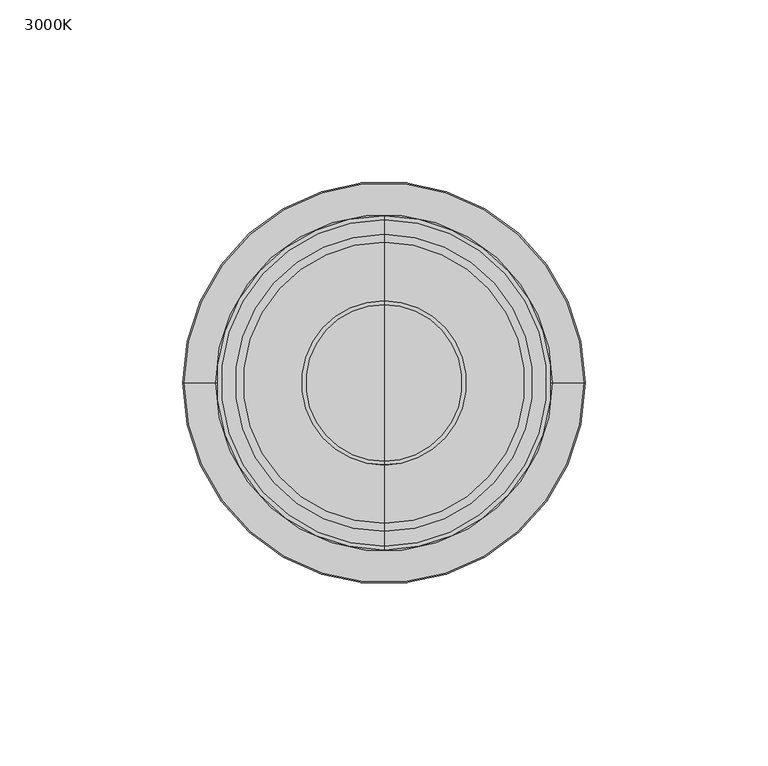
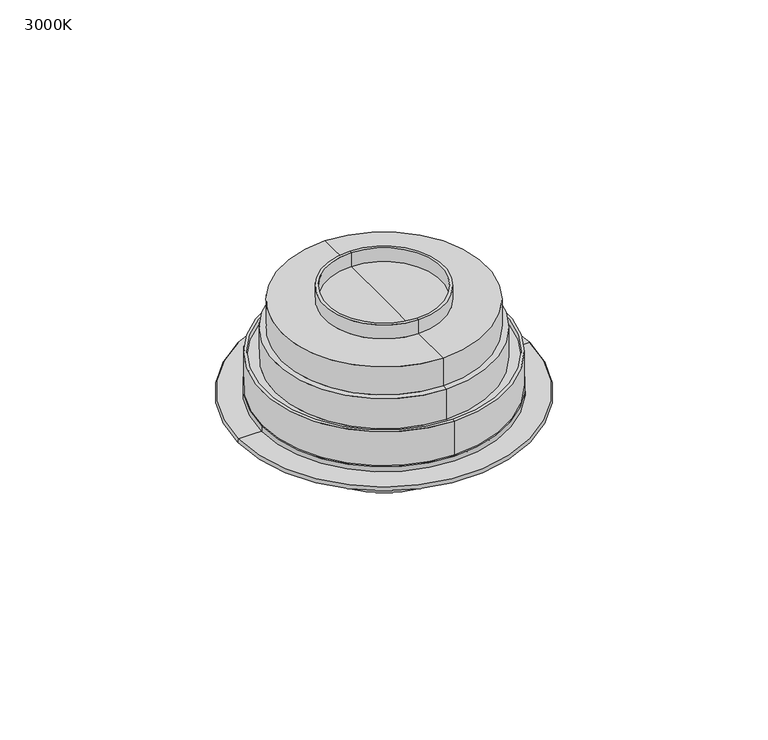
"""IFC4 building model written with IfcOpenShell, lengths in millimetres: light fixture geometry, Lumi-Smoke : 3000K."""

from ifc_helpers import new_model, si_unit, point, frame, frame_2d, origin, place, context, project, spatial, polyline, circle_curve, ellipse_curve, trimmed, segment, composite_curve, outline, extrude, source, transform, mapped, element, save
from ifc_brep_helpers import plane_surface, cylinder_surface, revolved_surface, advanced_brep


def light_fixture_3000k_4c776d6b(model_context):
    return source(origin(), model_context, "Body", "SolidModel", [
        advanced_brep(
        [(-0.0291, 0.0, 3974.8311172), (-4.1121669, 0.0, 3974.8311172), (4.0539669, 0.0, 3974.8311172), (19.7035983, 0.0, 3976.7916827), (-19.7617982, 0.0, 3976.7916827), (-0.0291, 0.0, 3976.7916827)],
        [
            (0, 1),
            (1, 2, circle_curve(frame((-0.0291, 0.0, 3974.8311172), z_axis=(0.0, 0.0, -1.0), x_axis=(-1.0, 0.0, 0.0)), 4.0830669)),
            (2, 0),
            (2, 1, circle_curve(frame((-0.0291, 0.0, 3974.8311172), z_axis=(0.0, 0.0, -1.0), x_axis=(-1.0, 0.0, 0.0)), 4.0830669)),
            (3, 4, circle_curve(frame((-0.0291, 0.0, 3976.7916827), z_axis=(0.0, 0.0, 1.0), x_axis=(-1.0, 0.0, 0.0)), 19.7326982)),
            (4, 5),
            (5, 3),
            (4, 3, circle_curve(frame((-0.0291, 0.0, 3976.7916827), z_axis=(0.0, 0.0, 1.0), x_axis=(-1.0, 0.0, 0.0)), 19.7326982)),
            (1, 4, circle_curve(frame((44.4302261, 0.0, 4425.7458804), z_axis=(0.0, 1.0, 0.0), x_axis=(1.0, 0.0, 0.0)), 453.5201071)),
            (3, 2, circle_curve(frame((-44.488426, 0.0, 4425.7458804), z_axis=(0.0, 1.0, 0.0), x_axis=(-1.0, 0.0, 0.0)), 453.5201071)),
        ],
        [
            plane_surface(frame((-0.0291, 0.0, 3974.8311172), z_axis=(0.0, 0.0, -1.0), x_axis=(-1.0, 0.0, 0.0))),
            plane_surface(frame((-0.0291, 0.0, 3976.7916827), z_axis=(0.0, 0.0, 1.0), x_axis=(-1.0, 0.0, 0.0))),
            revolved_surface(trimmed(ellipse_curve(frame((44.4302261, 0.0, 4425.7458804), z_axis=(0.0, -1.0, 0.0), x_axis=(1.0, 0.0, 0.0)), 453.5201071, 453.5201071), [point((-19.7617982, 0.0, 3976.7916827))], [point((-4.1121669, 0.0, 3974.8311172))], True, "CARTESIAN"), (-0.0291, 0.0, 4324.4347907), (0.0, 0.0, -1.0)),
        ],
        [
            (0, [[1, 2, 3]]),
            (0, [[-3, 4, -1]]),
            (1, [[5, 6, 7]]),
            (1, [[8, -7, -6]]),
            (2, [[-2, 9, -5, 10]]),
            (2, [[-4, -10, -8, -9]]),
        ],
    ),
        advanced_brep(
        [(-0.0291, 0.0, 3976.7916827), (-19.7617982, 0.0, 3976.7916827), (19.7035983, 0.0, 3976.7916827), (27.4999315, 0.0, 3978.7355269), (-27.5581315, 0.0, 3978.7355269), (-0.0291, 0.0, 3978.7355269)],
        [
            (0, 1),
            (1, 2, circle_curve(frame((-0.0291, 0.0, 3976.7916827), z_axis=(0.0, 0.0, -1.0), x_axis=(-1.0, 0.0, 0.0)), 19.7326982)),
            (2, 0),
            (2, 1, circle_curve(frame((-0.0291, 0.0, 3976.7916827), z_axis=(0.0, 0.0, -1.0), x_axis=(-1.0, 0.0, 0.0)), 19.7326982)),
            (3, 4, circle_curve(frame((-0.0291, 0.0, 3978.7355269), z_axis=(0.0, 0.0, 1.0), x_axis=(-1.0, 0.0, 0.0)), 27.5290315)),
            (4, 5),
            (5, 3),
            (4, 3, circle_curve(frame((-0.0291, 0.0, 3978.7355269), z_axis=(0.0, 0.0, 1.0), x_axis=(-1.0, 0.0, 0.0)), 27.5290315)),
            (1, 4, circle_curve(frame((-18.7375811, 0.0, 3997.5062079), z_axis=(0.0, 1.0, 0.0), x_axis=(1.0, 0.0, 0.0)), 20.7398306)),
            (3, 2, circle_curve(frame((18.6793811, 0.0, 3997.5062079), z_axis=(0.0, 1.0, 0.0), x_axis=(-1.0, 0.0, 0.0)), 20.7398306)),
        ],
        [
            plane_surface(frame((-0.0291, 0.0, 3976.7916827), z_axis=(0.0, 0.0, -1.0), x_axis=(-1.0, 0.0, 0.0))),
            plane_surface(frame((-0.0291, 0.0, 3978.7355269), z_axis=(0.0, 0.0, 1.0), x_axis=(-1.0, 0.0, 0.0))),
            revolved_surface(trimmed(ellipse_curve(frame((-18.7375811, 0.0, 3997.5062079), z_axis=(0.0, -1.0, 0.0), x_axis=(1.0, 0.0, 0.0)), 20.7398306, 20.7398306), [point((-27.5581315, 0.0, 3978.7355269))], [point((-19.7617982, 0.0, 3976.7916827))], True, "CARTESIAN"), (-0.0291, 0.0, 4324.4347907), (0.0, 0.0, -1.0)),
        ],
        [
            (0, [[1, 2, 3]]),
            (0, [[-3, 4, -1]]),
            (1, [[5, 6, 7]]),
            (1, [[8, -7, -6]]),
            (2, [[-2, 9, -5, 10]]),
            (2, [[-4, -10, -8, -9]]),
        ],
    ),
        advanced_brep(
        [(-0.0291, 0.0, 3978.7355269), (-27.5581315, 0.0, 3978.7355269), (27.4999315, 0.0, 3978.7355269), (28.9292988, 0.0, 3980.9449981), (-28.9874987, 0.0, 3980.9449981), (-0.0291, 0.0, 3980.9449981)],
        [
            (0, 1),
            (1, 2, circle_curve(frame((-0.0291, 0.0, 3978.7355269), z_axis=(0.0, 0.0, -1.0), x_axis=(-1.0, 0.0, 0.0)), 27.5290315)),
            (2, 0),
            (2, 1, circle_curve(frame((-0.0291, 0.0, 3978.7355269), z_axis=(0.0, 0.0, -1.0), x_axis=(-1.0, 0.0, 0.0)), 27.5290315)),
            (3, 4, circle_curve(frame((-0.0291, 0.0, 3980.9449981), z_axis=(0.0, 0.0, 1.0), x_axis=(-1.0, 0.0, 0.0)), 28.9583987)),
            (4, 5),
            (5, 3),
            (4, 3, circle_curve(frame((-0.0291, 0.0, 3980.9449981), z_axis=(0.0, 0.0, 1.0), x_axis=(-1.0, 0.0, 0.0)), 28.9583987)),
            (1, 4, circle_curve(frame((-26.5278275, 0.0, 3980.9691426), z_axis=(0.0, 1.0, 0.0), x_axis=(1.0, 0.0, 0.0)), 2.4597897)),
            (3, 2, circle_curve(frame((26.4696276, 0.0, 3980.9691426), z_axis=(0.0, 1.0, 0.0), x_axis=(-1.0, 0.0, 0.0)), 2.4597897)),
        ],
        [
            plane_surface(frame((-0.0291, 0.0, 3978.7355269), z_axis=(0.0, 0.0, -1.0), x_axis=(-1.0, 0.0, 0.0))),
            plane_surface(frame((-0.0291, 0.0, 3980.9449981), z_axis=(0.0, 0.0, 1.0), x_axis=(-1.0, 0.0, 0.0))),
            revolved_surface(trimmed(ellipse_curve(frame((-26.5278275, 0.0, 3980.9691426), z_axis=(0.0, -1.0, 0.0), x_axis=(1.0, 0.0, 0.0)), 2.4597897, 2.4597897), [point((-28.9874987, 0.0, 3980.9449981))], [point((-27.5581315, 0.0, 3978.7355269))], True, "CARTESIAN"), (-0.0291, 0.0, 4324.4347907), (0.0, 0.0, -1.0)),
        ],
        [
            (0, [[1, 2, 3]]),
            (0, [[-3, 4, -1]]),
            (1, [[5, 6, 7]]),
            (1, [[8, -7, -6]]),
            (2, [[-2, 9, -5, 10]]),
            (2, [[-4, -10, -8, -9]]),
        ],
    ),
        advanced_brep(
        [(28.9292988, 0.0, 3984.0699981), (-28.9874987, 0.0, 3984.0699981), (-0.0291, 0.0, 3984.0699981), (28.9292988, 0.0, 3980.9449981), (-28.9874987, 0.0, 3980.9449981), (-0.0291, 0.0, 3980.9449981)],
        [
            (0, 1, circle_curve(frame((-0.0291, 0.0, 3984.0699981), z_axis=(0.0, 0.0, 1.0), x_axis=(-1.0, 0.0, 0.0)), 28.9583987)),
            (1, 2),
            (2, 0),
            (1, 0, circle_curve(frame((-0.0291, 0.0, 3984.0699981), z_axis=(0.0, 0.0, 1.0), x_axis=(-1.0, 0.0, 0.0)), 28.9583987)),
            (3, 4, circle_curve(frame((-0.0291, 0.0, 3980.9449981), z_axis=(0.0, 0.0, 1.0), x_axis=(-1.0, 0.0, 0.0)), 28.9583987)),
            (4, 1),
            (0, 3),
            (4, 3, circle_curve(frame((-0.0291, 0.0, 3980.9449981), z_axis=(0.0, 0.0, 1.0), x_axis=(-1.0, 0.0, 0.0)), 28.9583987)),
            (5, 4),
            (3, 5),
        ],
        [
            plane_surface(frame((-0.0291, 0.0, 3984.0699981), z_axis=(0.0, 0.0, 1.0), x_axis=(-1.0, 0.0, 0.0))),
            cylinder_surface(frame((-0.0291, 0.0, 4324.4347907), z_axis=(0.0, 0.0, -1.0), x_axis=(-1.0, 0.0, 0.0)), 28.9583987),
            plane_surface(frame((-0.0291, 0.0, 3980.9449981), z_axis=(0.0, 0.0, -1.0), x_axis=(-1.0, 0.0, 0.0))),
        ],
        [
            (0, [[1, 2, 3]]),
            (0, [[4, -3, -2]]),
            (1, [[5, 6, -1, 7]]),
            (1, [[8, -7, -4, -6]]),
            (2, [[9, -5, 10]]),
            (2, [[-10, -8, -9]]),
        ],
    ),
        advanced_brep(
        [(28.9292988, 0.0, 3994.79), (-28.9874987, 0.0, 3994.79), (-0.0291, 0.0, 3994.79), (28.9292988, 0.0, 3993.3552829), (-28.9874987, 0.0, 3993.3552829), (-0.0291, 0.0, 3993.3552829)],
        [
            (0, 1, circle_curve(frame((-0.0291, 0.0, 3994.79), z_axis=(0.0, 0.0, 1.0), x_axis=(-1.0, 0.0, 0.0)), 28.9583987)),
            (1, 2),
            (2, 0),
            (1, 0, circle_curve(frame((-0.0291, 0.0, 3994.79), z_axis=(0.0, 0.0, 1.0), x_axis=(-1.0, 0.0, 0.0)), 28.9583987)),
            (3, 4, circle_curve(frame((-0.0291, 0.0, 3993.3552829), z_axis=(0.0, 0.0, 1.0), x_axis=(-1.0, 0.0, 0.0)), 28.9583987)),
            (4, 1),
            (0, 3),
            (4, 3, circle_curve(frame((-0.0291, 0.0, 3993.3552829), z_axis=(0.0, 0.0, 1.0), x_axis=(-1.0, 0.0, 0.0)), 28.9583987)),
            (5, 4),
            (3, 5),
        ],
        [
            plane_surface(frame((-0.0291, 0.0, 3994.79), z_axis=(0.0, 0.0, 1.0), x_axis=(-1.0, 0.0, 0.0))),
            cylinder_surface(frame((-0.0291, 0.0, 4324.4347907), z_axis=(0.0, 0.0, -1.0), x_axis=(-1.0, 0.0, 0.0)), 28.9583987),
            plane_surface(frame((-0.0291, 0.0, 3993.3552829), z_axis=(0.0, 0.0, -1.0), x_axis=(-1.0, 0.0, 0.0))),
        ],
        [
            (0, [[1, 2, 3]]),
            (0, [[4, -3, -2]]),
            (1, [[5, 6, -1, 7]]),
            (1, [[8, -7, -4, -6]]),
            (2, [[9, -5, 10]]),
            (2, [[-10, -8, -9]]),
        ],
    ),
        advanced_brep(
        [(28.0845952, 0.0, 3984.0699981), (-28.1427952, 0.0, 3984.0699981), (-28.1427952, 0.0, 3993.3552829), (28.0845952, 0.0, 3993.3552829), (-0.0291, 0.0, 3984.0699981), (-0.0291, 0.0, 3993.3552829)],
        [
            (0, 1, circle_curve(frame((-0.0291, 0.0, 3984.0699981), z_axis=(0.0, 0.0, 1.0), x_axis=(-1.0, 0.0, 0.0)), 28.1136952)),
            (1, 2),
            (2, 3, circle_curve(frame((-0.0291, 0.0, 3993.3552829), z_axis=(0.0, 0.0, -1.0), x_axis=(-1.0, 0.0, 0.0)), 28.1136952)),
            (3, 0),
            (1, 0, circle_curve(frame((-0.0291, 0.0, 3984.0699981), z_axis=(0.0, 0.0, 1.0), x_axis=(-1.0, 0.0, 0.0)), 28.1136952)),
            (3, 2, circle_curve(frame((-0.0291, 0.0, 3993.3552829), z_axis=(0.0, 0.0, -1.0), x_axis=(-1.0, 0.0, 0.0)), 28.1136952)),
            (4, 1),
            (0, 4),
            (2, 5),
            (5, 3),
        ],
        [
            cylinder_surface(frame((-0.0291, 0.0, 4324.4347907), z_axis=(0.0, 0.0, -1.0), x_axis=(-1.0, 0.0, 0.0)), 28.1136952),
            plane_surface(frame((-0.0291, 0.0, 3984.0699981), z_axis=(0.0, 0.0, -1.0), x_axis=(-1.0, 0.0, 0.0))),
            plane_surface(frame((-0.0291, 0.0, 3993.3552829), z_axis=(0.0, 0.0, 1.0), x_axis=(-1.0, 0.0, 0.0))),
        ],
        [
            (0, [[1, 2, 3, 4]]),
            (0, [[5, -4, 6, -2]]),
            (1, [[7, -1, 8]]),
            (1, [[-8, -5, -7]]),
            (2, [[-3, 9, 10]]),
            (2, [[-6, -10, -9]]),
        ],
    ),
        extrude(outline(composite_curve([segment(trimmed(circle_curve(frame_2d((0.124856, -0.1564231)), 40.0), [point((-39.875144, -0.1564231))], [point((40.124856, -0.1564231))], False, "CARTESIAN"), True, "CONTINUOUS"), segment(trimmed(circle_curve(frame_2d((0.124856, -0.1564231)), 40.0), [point((40.124856, -0.1564231))], [point((-39.875144, -0.1564231))], False, "CARTESIAN"), True, "CONTINUOUS")], self_intersect=False), holes=[composite_curve([segment(trimmed(circle_curve(frame_2d((0.124856, -0.1564231)), 29.1123547), [point((-28.9874987, -0.1564231))], [point((29.2372107, -0.1564231))], True, "CARTESIAN"), True, "CONTINUOUS"), segment(trimmed(circle_curve(frame_2d((0.124856, -0.1564231)), 29.1123547), [point((29.2372107, -0.1564231))], [point((-28.9874987, -0.1564231))], True, "CARTESIAN"), True, "CONTINUOUS")], self_intersect=False)]), frame((0.0, 0.0, 3994.29), z_axis=(0.0, 0.0, 1.0), x_axis=(1.0, 0.0, 0.0)), (0.0, 0.0, 1.0), 0.5),
        advanced_brep(
        [(-46.0291, 0.0, 4000.0), (45.9709, 0.0, 4000.0), (-0.0291, 0.0, 4000.0), (-46.0291, 0.0, 4001.88), (45.9709, 0.0, 4001.88), (-0.0291, 0.0, 4001.88)],
        [
            (0, 1, circle_curve(frame((-0.0291, 0.0, 4000.0), z_axis=(0.0, 0.0, -1.0), x_axis=(1.0, 0.0, 0.0)), 46.0)),
            (1, 2),
            (2, 0),
            (1, 0, circle_curve(frame((-0.0291, 0.0, 4000.0), z_axis=(0.0, 0.0, -1.0), x_axis=(1.0, 0.0, 0.0)), 46.0)),
            (3, 4, circle_curve(frame((-0.0291, 0.0, 4001.88), z_axis=(0.0, 0.0, -1.0), x_axis=(1.0, 0.0, 0.0)), 46.0)),
            (4, 1),
            (0, 3),
            (4, 3, circle_curve(frame((-0.0291, 0.0, 4001.88), z_axis=(0.0, 0.0, -1.0), x_axis=(1.0, 0.0, 0.0)), 46.0)),
            (5, 4),
            (3, 5),
        ],
        [
            plane_surface(frame((-0.0291, 0.0, 4000.0), z_axis=(0.0, 0.0, -1.0), x_axis=(1.0, 0.0, 0.0))),
            cylinder_surface(frame((-0.0291, 0.0, 3993.7591953), z_axis=(0.0, 0.0, 1.0), x_axis=(1.0, 0.0, 0.0)), 46.0),
            plane_surface(frame((-0.0291, 0.0, 4001.88), z_axis=(0.0, 0.0, 1.0), x_axis=(1.0, 0.0, 0.0))),
        ],
        [
            (0, [[1, 2, 3]]),
            (0, [[4, -3, -2]]),
            (1, [[5, 6, -1, 7]]),
            (1, [[8, -7, -4, -6]]),
            (2, [[9, -5, 10]]),
            (2, [[-10, -8, -9]]),
        ],
    ),
        advanced_brep(
        [(-54.461143, 0.0, 3998.2898924), (54.4029431, 0.0, 3998.2898924), (47.8206028, 0.0, 3994.79), (-47.8788028, 0.0, 3994.79), (-54.7442231, 0.0, 4000.0), (54.6860231, 0.0, 4000.0), (-26.7756724, 0.0, 4000.0), (26.7174725, 0.0, 4000.0), (26.7174725, 0.0, 3994.79), (-26.7756724, 0.0, 3994.79)],
        [
            (0, 1, circle_curve(frame((-0.0291, 0.0, 3998.2898924), z_axis=(0.0, 0.0, -1.0), x_axis=(1.0, 0.0, 0.0)), 54.4320431)),
            (1, 2),
            (2, 3, circle_curve(frame((-0.0291, 0.0, 3994.79), z_axis=(0.0, 0.0, 1.0), x_axis=(1.0, 0.0, 0.0)), 47.8497028)),
            (3, 0),
            (1, 0, circle_curve(frame((-0.0291, 0.0, 3998.2898924), z_axis=(0.0, 0.0, -1.0), x_axis=(1.0, 0.0, 0.0)), 54.4320431)),
            (3, 2, circle_curve(frame((-0.0291, 0.0, 3994.79), z_axis=(0.0, 0.0, 1.0), x_axis=(1.0, 0.0, 0.0)), 47.8497028)),
            (4, 5, circle_curve(frame((-0.0291, 0.0, 4000.0), z_axis=(0.0, 0.0, -1.0), x_axis=(1.0, 0.0, 0.0)), 54.7151231)),
            (5, 1, circle_curve(frame((53.8907655, 0.0, 3999.2531583), z_axis=(0.0, 1.0, 0.0), x_axis=(1.0, 0.0, 0.0)), 1.0909661)),
            (0, 4, circle_curve(frame((-53.9489654, 0.0, 3999.2531583), z_axis=(0.0, 1.0, 0.0), x_axis=(-1.0, 0.0, 0.0)), 1.0909661)),
            (5, 4, circle_curve(frame((-0.0291, 0.0, 4000.0), z_axis=(0.0, 0.0, -1.0), x_axis=(1.0, 0.0, 0.0)), 54.7151231)),
            (6, 7, circle_curve(frame((-0.0291, 0.0, 4000.0), z_axis=(0.0, 0.0, -1.0), x_axis=(1.0, 0.0, 0.0)), 26.7465724)),
            (7, 5),
            (4, 6),
            (7, 6, circle_curve(frame((-0.0291, 0.0, 4000.0), z_axis=(0.0, 0.0, -1.0), x_axis=(1.0, 0.0, 0.0)), 26.7465724)),
            (2, 8),
            (8, 9, circle_curve(frame((-0.0291, 0.0, 3994.79), z_axis=(0.0, 0.0, 1.0), x_axis=(1.0, 0.0, 0.0)), 26.7465724)),
            (9, 3),
            (9, 8, circle_curve(frame((-0.0291, 0.0, 3994.79), z_axis=(0.0, 0.0, 1.0), x_axis=(1.0, 0.0, 0.0)), 26.7465724)),
            (8, 7),
            (6, 9),
        ],
        [
            revolved_surface(polyline([(47.8206028, 0.0, 3994.79), (54.4029431, 0.0, 3998.2898924)]), (-0.0291, 0.0, 4324.4347907), (0.0, 0.0, 1.0)),
            revolved_surface(trimmed(ellipse_curve(frame((53.8907655, 0.0, 3999.2531583), z_axis=(0.0, -1.0, 0.0), x_axis=(1.0, 0.0, 0.0)), 1.0909661, 1.0909661), [point((54.4029431, 0.0, 3998.2898924))], [point((54.6860231, 0.0, 4000.0))], True, "CARTESIAN"), (-0.0291, 0.0, 4324.4347907), (0.0, 0.0, 1.0)),
            plane_surface(frame((-0.0291, 0.0, 4000.0), z_axis=(0.0, 0.0, 1.0), x_axis=(1.0, 0.0, 0.0))),
            plane_surface(frame((-0.0291, 0.0, 3994.79), z_axis=(0.0, 0.0, -1.0), x_axis=(1.0, 0.0, 0.0))),
            revolved_surface(polyline([(26.717472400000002, 0.0, 4000.0), (26.717472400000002, 0.0, 3994.79)]), (-0.0291, 0.0, 4324.4347907), (0.0, 0.0, 1.0)),
        ],
        [
            (0, [[1, 2, 3, 4]]),
            (0, [[5, -4, 6, -2]]),
            (1, [[7, 8, -1, 9]]),
            (1, [[10, -9, -5, -8]]),
            (2, [[11, 12, -7, 13]]),
            (2, [[14, -13, -10, -12]]),
            (3, [[-3, 15, 16, 17]]),
            (3, [[-6, -17, 18, -15]]),
            (4, [[-16, 19, -11, 20]]),
            (4, [[-18, -20, -14, -19]]),
        ],
    ),
        advanced_brep(
        [(-0.0291, 38.41986, 4025.2200055), (-0.0291, -38.41986, 4025.2200055), (-0.0291, -38.41986, 4036.27), (-0.0291, 38.41986, 4036.27), (-0.0291, 40.6278014, 4025.2200055), (-0.0291, -40.6278014, 4025.2200055), (-0.0291, 40.6278014, 4013.3214017), (-0.0291, -40.6278014, 4013.3214017), (-0.0291, 44.6302193, 4013.3214017), (-0.0291, -44.6302193, 4013.3214017), (-0.0291, 44.6302193, 4015.63), (-0.0291, -44.6302193, 4015.63), (-0.0291, 45.6921331, 4015.63), (-0.0291, -45.6921331, 4015.63), (-0.0291, 45.6921331, 4000.0), (-0.0291, -45.6921331, 4000.0), (-0.0291, 0.0, 4000.0), (-0.0291, -22.4510975, 4036.27), (-0.0291, 22.4510975, 4036.27), (-0.0291, 21.4345521, 4036.27), (-0.0291, -21.4345521, 4036.27), (-0.0291, 0.0, 4036.27), (-0.0291, 21.4345521, 4041.77), (-0.0291, -21.4345521, 4041.77), (-0.0291, 22.4510975, 4041.77), (-0.0291, -22.4510975, 4041.77)],
        [
            (0, 1, circle_curve(frame((-0.0291, 0.0, 4025.2200055), z_axis=(0.0, 0.0, 1.0), x_axis=(0.0, -1.0, 0.0)), 38.41986)),
            (1, 2),
            (2, 3, circle_curve(frame((-0.0291, 0.0, 4036.27), z_axis=(0.0, 0.0, -1.0), x_axis=(0.0, -1.0, 0.0)), 38.41986)),
            (3, 0),
            (1, 0, circle_curve(frame((-0.0291, 0.0, 4025.2200055), z_axis=(0.0, 0.0, 1.0), x_axis=(0.0, -1.0, 0.0)), 38.41986)),
            (3, 2, circle_curve(frame((-0.0291, 0.0, 4036.27), z_axis=(0.0, 0.0, -1.0), x_axis=(0.0, -1.0, 0.0)), 38.41986)),
            (4, 5, circle_curve(frame((-0.0291, 0.0, 4025.2200055), z_axis=(0.0, 0.0, 1.0), x_axis=(0.0, -1.0, 0.0)), 40.6278014)),
            (5, 1),
            (0, 4),
            (5, 4, circle_curve(frame((-0.0291, 0.0, 4025.2200055), z_axis=(0.0, 0.0, 1.0), x_axis=(0.0, -1.0, 0.0)), 40.6278014)),
            (6, 7, circle_curve(frame((-0.0291, 0.0, 4013.3214017), z_axis=(0.0, 0.0, 1.0), x_axis=(0.0, -1.0, 0.0)), 40.6278014)),
            (7, 5),
            (4, 6),
            (7, 6, circle_curve(frame((-0.0291, 0.0, 4013.3214017), z_axis=(0.0, 0.0, 1.0), x_axis=(0.0, -1.0, 0.0)), 40.6278014)),
            (8, 9, circle_curve(frame((-0.0291, 0.0, 4013.3214017), z_axis=(0.0, 0.0, 1.0), x_axis=(0.0, -1.0, 0.0)), 44.6302193)),
            (9, 7),
            (6, 8),
            (9, 8, circle_curve(frame((-0.0291, 0.0, 4013.3214017), z_axis=(0.0, 0.0, 1.0), x_axis=(0.0, -1.0, 0.0)), 44.6302193)),
            (10, 11, circle_curve(frame((-0.0291, 0.0, 4015.63), z_axis=(0.0, 0.0, 1.0), x_axis=(0.0, -1.0, 0.0)), 44.6302193)),
            (11, 9),
            (8, 10),
            (11, 10, circle_curve(frame((-0.0291, 0.0, 4015.63), z_axis=(0.0, 0.0, 1.0), x_axis=(0.0, -1.0, 0.0)), 44.6302193)),
            (12, 13, circle_curve(frame((-0.0291, 0.0, 4015.63), z_axis=(0.0, 0.0, 1.0), x_axis=(0.0, -1.0, 0.0)), 45.6921331)),
            (13, 11),
            (10, 12),
            (13, 12, circle_curve(frame((-0.0291, 0.0, 4015.63), z_axis=(0.0, 0.0, 1.0), x_axis=(0.0, -1.0, 0.0)), 45.6921331)),
            (14, 15, circle_curve(frame((-0.0291, 0.0, 4000.0), z_axis=(0.0, 0.0, 1.0), x_axis=(0.0, -1.0, 0.0)), 45.6921331)),
            (15, 13),
            (12, 14),
            (15, 14, circle_curve(frame((-0.0291, 0.0, 4000.0), z_axis=(0.0, 0.0, 1.0), x_axis=(0.0, -1.0, 0.0)), 45.6921331)),
            (16, 15),
            (14, 16),
            (2, 17),
            (17, 18, circle_curve(frame((-0.0291, 0.0, 4036.27), z_axis=(0.0, 0.0, -1.0), x_axis=(0.0, -1.0, 0.0)), 22.4510975)),
            (18, 3),
            (18, 17, circle_curve(frame((-0.0291, 0.0, 4036.27), z_axis=(0.0, 0.0, -1.0), x_axis=(0.0, -1.0, 0.0)), 22.4510975)),
            (19, 20, circle_curve(frame((-0.0291, 0.0, 4036.27), z_axis=(0.0, 0.0, 1.0), x_axis=(0.0, -1.0, 0.0)), 21.4345521)),
            (20, 21),
            (21, 19),
            (20, 19, circle_curve(frame((-0.0291, 0.0, 4036.27), z_axis=(0.0, 0.0, 1.0), x_axis=(0.0, -1.0, 0.0)), 21.4345521)),
            (22, 23, circle_curve(frame((-0.0291, 0.0, 4041.77), z_axis=(0.0, 0.0, 1.0), x_axis=(0.0, -1.0, 0.0)), 21.4345521)),
            (23, 20),
            (19, 22),
            (23, 22, circle_curve(frame((-0.0291, 0.0, 4041.77), z_axis=(0.0, 0.0, 1.0), x_axis=(0.0, -1.0, 0.0)), 21.4345521)),
            (24, 25, circle_curve(frame((-0.0291, 0.0, 4041.77), z_axis=(0.0, 0.0, 1.0), x_axis=(0.0, -1.0, 0.0)), 22.4510975)),
            (25, 23),
            (22, 24),
            (25, 24, circle_curve(frame((-0.0291, 0.0, 4041.77), z_axis=(0.0, 0.0, 1.0), x_axis=(0.0, -1.0, 0.0)), 22.4510975)),
            (17, 25),
            (24, 18),
        ],
        [
            cylinder_surface(frame((-0.0291, 0.0, 4369.9206714), z_axis=(0.0, 0.0, -1.0), x_axis=(0.0, -1.0, 0.0)), 38.41986),
            plane_surface(frame((-0.0291, 0.0, 4025.2200055), z_axis=(0.0, 0.0, 1.0), x_axis=(0.0, -1.0, 0.0))),
            cylinder_surface(frame((-0.0291, 0.0, 4369.9206714), z_axis=(0.0, 0.0, -1.0), x_axis=(0.0, -1.0, 0.0)), 40.6278014),
            plane_surface(frame((-0.0291, 0.0, 4013.3214017), z_axis=(0.0, 0.0, 1.0), x_axis=(0.0, -1.0, 0.0))),
            revolved_surface(polyline([(-0.0291, -44.6302193, 4013.3214017), (-0.0291, -44.6302193, 4015.63)]), (-0.0291, 0.0, 4369.9206714), (0.0, 0.0, -1.0)),
            plane_surface(frame((-0.0291, 0.0, 4015.63), z_axis=(0.0, 0.0, 1.0), x_axis=(0.0, -1.0, 0.0))),
            cylinder_surface(frame((-0.0291, 0.0, 4369.9206714), z_axis=(0.0, 0.0, -1.0), x_axis=(0.0, -1.0, 0.0)), 45.6921331),
            plane_surface(frame((-0.0291, 0.0, 4000.0), z_axis=(0.0, 0.0, -1.0), x_axis=(0.0, -1.0, 0.0))),
            plane_surface(frame((-0.0291, 0.0, 4036.27), z_axis=(0.0, 0.0, 1.0), x_axis=(0.0, -1.0, 0.0))),
            revolved_surface(polyline([(-0.0291, -21.4345521, 4036.27), (-0.0291, -21.4345521, 4041.77)]), (-0.0291, 0.0, 4369.9206714), (0.0, 0.0, -1.0)),
            plane_surface(frame((-0.0291, 0.0, 4041.77), z_axis=(0.0, 0.0, 1.0), x_axis=(0.0, -1.0, 0.0))),
            cylinder_surface(frame((-0.0291, 0.0, 4369.9206714), z_axis=(0.0, 0.0, -1.0), x_axis=(0.0, -1.0, 0.0)), 22.4510975),
        ],
        [
            (0, [[1, 2, 3, 4]]),
            (0, [[5, -4, 6, -2]]),
            (1, [[7, 8, -1, 9]]),
            (1, [[10, -9, -5, -8]]),
            (2, [[11, 12, -7, 13]]),
            (2, [[14, -13, -10, -12]]),
            (3, [[15, 16, -11, 17]]),
            (3, [[18, -17, -14, -16]]),
            (4, [[19, 20, -15, 21]]),
            (4, [[22, -21, -18, -20]]),
            (5, [[23, 24, -19, 25]]),
            (5, [[26, -25, -22, -24]]),
            (6, [[27, 28, -23, 29]]),
            (6, [[30, -29, -26, -28]]),
            (7, [[31, -27, 32]]),
            (7, [[-32, -30, -31]]),
            (8, [[-3, 33, 34, 35]]),
            (8, [[-6, -35, 36, -33]]),
            (8, [[37, 38, 39]]),
            (8, [[40, -39, -38]]),
            (9, [[41, 42, -37, 43]]),
            (9, [[44, -43, -40, -42]]),
            (10, [[45, 46, -41, 47]]),
            (10, [[48, -47, -44, -46]]),
            (11, [[-34, 49, -45, 50]]),
            (11, [[-36, -50, -48, -49]]),
        ],
    ),
        advanced_brep(
        [(-0.0291, 45.5019222, 4000.0), (-0.0291, -45.5019222, 4000.0), (-0.0291, 0.0, 4000.0), (-0.0291, 46.154328, 3998.87), (-0.0291, -46.154328, 3998.87), (-0.0291, 0.0, 3998.87)],
        [
            (0, 1, circle_curve(frame((-0.0291, 0.0, 4000.0), z_axis=(0.0, 0.0, 1.0), x_axis=(0.0, -1.0, 0.0)), 45.5019222)),
            (1, 2),
            (2, 0),
            (1, 0, circle_curve(frame((-0.0291, 0.0, 4000.0), z_axis=(0.0, 0.0, 1.0), x_axis=(0.0, -1.0, 0.0)), 45.5019222)),
            (3, 4, circle_curve(frame((-0.0291, 0.0, 3998.87), z_axis=(0.0, 0.0, 1.0), x_axis=(0.0, -1.0, 0.0)), 46.154328)),
            (4, 1, circle_curve(frame((-0.0291, -46.2918945, 3999.7027574), z_axis=(1.0, 0.0, 0.0), x_axis=(0.0, -1.0, 0.0)), 0.8440435)),
            (0, 3, circle_curve(frame((-0.0291, 46.2918945, 3999.7027574), z_axis=(1.0, 0.0, 0.0), x_axis=(0.0, 1.0, 0.0)), 0.8440435)),
            (4, 3, circle_curve(frame((-0.0291, 0.0, 3998.87), z_axis=(0.0, 0.0, 1.0), x_axis=(0.0, -1.0, 0.0)), 46.154328)),
            (5, 4),
            (3, 5),
        ],
        [
            plane_surface(frame((-0.0291, 0.0, 4000.0), z_axis=(0.0, 0.0, 1.0), x_axis=(0.0, -1.0, 0.0))),
            revolved_surface(trimmed(ellipse_curve(frame((-0.0291, -46.2918945, 3999.7027574), z_axis=(-1.0, 0.0, 0.0), x_axis=(0.0, -1.0, 0.0)), 0.8440435, 0.8440435), [point((-0.0291, -45.5019222, 4000.0))], [point((-0.0291, -46.154328, 3998.87))], True, "CARTESIAN"), (-0.0291, 0.0, 4284.4582372), (0.0, 0.0, -1.0)),
            plane_surface(frame((-0.0291, 0.0, 3998.87), z_axis=(0.0, 0.0, -1.0), x_axis=(0.0, -1.0, 0.0))),
        ],
        [
            (0, [[1, 2, 3]]),
            (0, [[4, -3, -2]]),
            (1, [[5, 6, -1, 7]]),
            (1, [[8, -7, -4, -6]]),
            (2, [[9, -5, 10]]),
            (2, [[-10, -8, -9]]),
        ],
    ),
    ])


if __name__ == "__main__":
    model = new_model("IFC4")
    model_context = context("Model", 3, world=origin())
    ifc_project = project(units=[si_unit("LENGTHUNIT", "METRE", prefix="MILLI")], contexts=[model_context])
    site = spatial("IfcSite", under=ifc_project)
    building = spatial("IfcBuilding", under=site)
    placement = place(None, origin())
    light_fixture_3000k_shape = light_fixture_3000k_4c776d6b(model_context)
    element("IfcLightFixture", 1, ObjectType="Lumi-Smoke : 3000K", at=placement, inside=building, context=model_context, shape_type="MappedRepresentation", body=[
        mapped(light_fixture_3000k_shape, transform((0.0, 0.0, 0.0), x_axis=(1.0, 0.0, 0.0), y_axis=(0.0, 1.0, 0.0), z_axis=(0.0, 0.0, 1.0))),
    ])
    save(model, "model.ifc")
